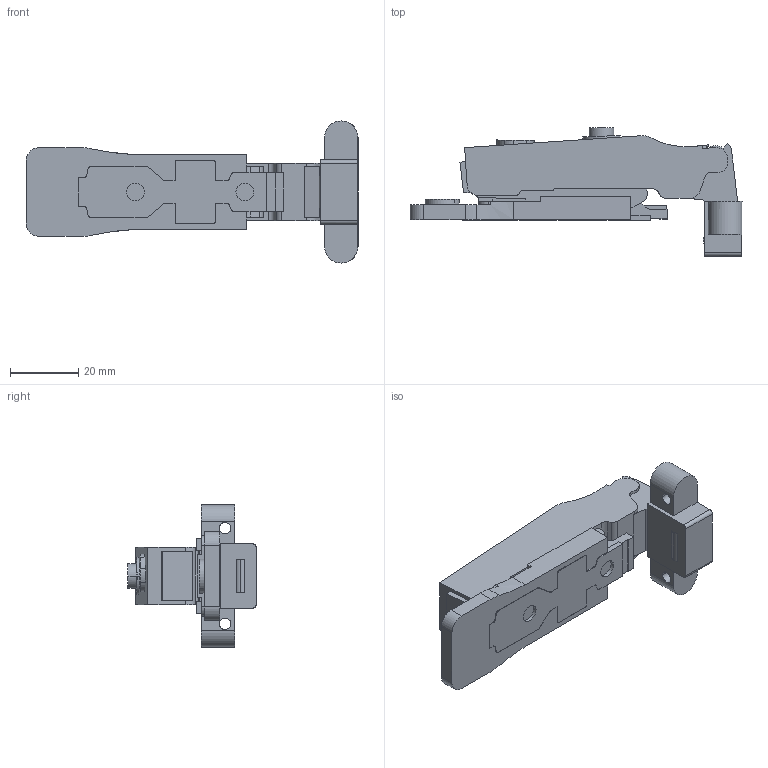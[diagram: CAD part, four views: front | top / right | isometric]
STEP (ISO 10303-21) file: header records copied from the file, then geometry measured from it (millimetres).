
FILE_DESCRIPTION (( 'STEP AP203' ), '1' );
FILE_NAME ('C80A678F+80H20YQ-DTC 3D close.STEP', '2023-10-07T07:01:33', ( 'Windows 蚚誧' ), ( '' ), 'SwSTEP 2.0', 'SolidWorks 2018', '' );
FILE_SCHEMA (( 'CONFIG_CONTROL_DESIGN' ));
Length unit declared in the file: millimetre
Products named in the file (1): C80A678F+80H20YQ-DTC 3D  close
Bounding box: 97.11 x 37.54 x 41.6 mm (x, y, z)
Volume: 35745.9 mm3; surface area: 11162.1 mm2
Topology: 1 solids, 1 shells, 227 faces, 648 edges, 431 vertices
Faces by surface type: plane 125, cylinder 96, bspline 4, torus 2
Entity records: 7725 total; most frequent: CARTESIAN_POINT 1617, ORIENTED_EDGE 1296, DIRECTION 1251, EDGE_CURVE 648, VECTOR 433, LINE 433, VERTEX_POINT 431, AXIS2_PLACEMENT_3D 409
